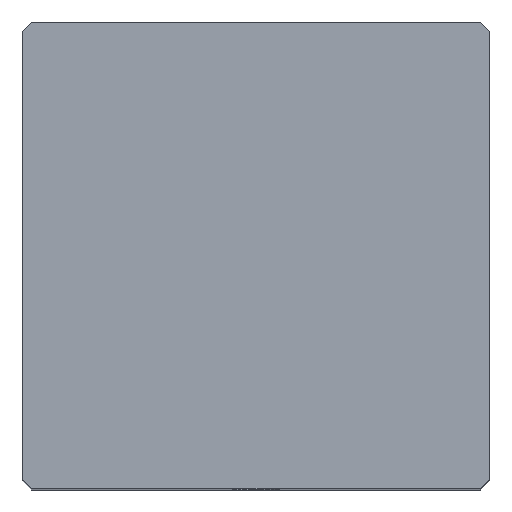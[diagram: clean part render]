
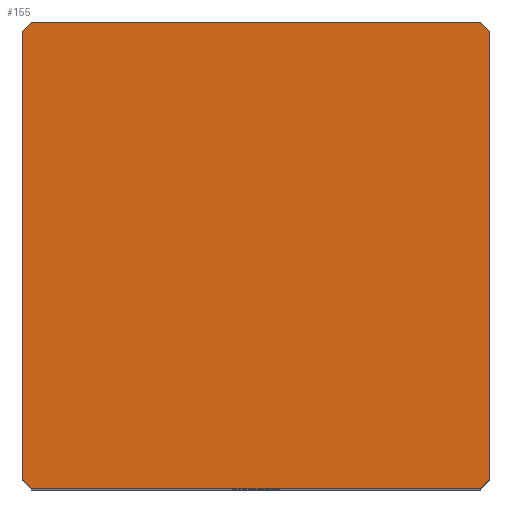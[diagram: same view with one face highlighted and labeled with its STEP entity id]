
A CAD part, top view. The second image highlights one B-rep face of the part: STEP entity #155.
In plain terms, the highlighted planar face has unit normal (0, 0, 1).
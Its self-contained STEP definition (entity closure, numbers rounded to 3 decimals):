
#39 = EDGE_CURVE('',#40,#42,#44,.T.);
#40 = VERTEX_POINT('',#41);
#41 = CARTESIAN_POINT('',(-10.,-9.6,25.75));
#42 = VERTEX_POINT('',#43);
#43 = CARTESIAN_POINT('',(-10.,9.6,25.75));
#44 = SURFACE_CURVE('',#45,(#49,#61),.PCURVE_S1.);
#45 = LINE('',#46,#47);
#46 = CARTESIAN_POINT('',(-10.,-10.,25.75));
#47 = VECTOR('',#48,1.);
#48 = DIRECTION('',(-0.,1.,0.));
#49 = PCURVE('',#50,#55);
#50 = PLANE('',#51);
#51 = AXIS2_PLACEMENT_3D('',#52,#53,#54);
#52 = CARTESIAN_POINT('',(-10.,-10.,0.));
#53 = DIRECTION('',(1.,0.,-0.));
#54 = DIRECTION('',(0.,0.,1.));
#55 = DEFINITIONAL_REPRESENTATION('',(#56),#60);
#56 = LINE('',#57,#58);
#57 = CARTESIAN_POINT('',(25.75,0.));
#58 = VECTOR('',#59,1.);
#59 = DIRECTION('',(0.,-1.));
#60 = ( GEOMETRIC_REPRESENTATION_CONTEXT(2) 
PARAMETRIC_REPRESENTATION_CONTEXT() REPRESENTATION_CONTEXT('2D SPACE',''
  ) );
#61 = PCURVE('',#62,#67);
#62 = PLANE('',#63);
#63 = AXIS2_PLACEMENT_3D('',#64,#65,#66);
#64 = CARTESIAN_POINT('',(-10.,-10.,25.75));
#65 = DIRECTION('',(0.,0.,1.));
#66 = DIRECTION('',(1.,0.,-0.));
#67 = DEFINITIONAL_REPRESENTATION('',(#68),#72);
#68 = LINE('',#69,#70);
#69 = CARTESIAN_POINT('',(0.,0.));
#70 = VECTOR('',#71,1.);
#71 = DIRECTION('',(0.,1.));
#72 = ( GEOMETRIC_REPRESENTATION_CONTEXT(2) 
PARAMETRIC_REPRESENTATION_CONTEXT() REPRESENTATION_CONTEXT('2D SPACE',''
  ) );
#90 = PLANE('',#91);
#91 = AXIS2_PLACEMENT_3D('',#92,#93,#94);
#92 = CARTESIAN_POINT('',(-9.8,-9.8,0.));
#93 = DIRECTION('',(-0.707,-0.707,0.));
#94 = DIRECTION('',(-0.,-0.,-1.));
#144 = PLANE('',#145);
#145 = AXIS2_PLACEMENT_3D('',#146,#147,#148);
#146 = CARTESIAN_POINT('',(-9.8,9.8,0.));
#147 = DIRECTION('',(0.707,-0.707,0.));
#148 = DIRECTION('',(-0.,-0.,-1.));
#155 = ADVANCED_FACE('',(#156),#62,.T.);
#156 = FACE_BOUND('',#157,.T.);
#157 = EDGE_LOOP('',(#158,#159,#182,#210,#238,#266,#294,#322));
#158 = ORIENTED_EDGE('',*,*,#39,.F.);
#159 = ORIENTED_EDGE('',*,*,#160,.T.);
#160 = EDGE_CURVE('',#40,#161,#163,.T.);
#161 = VERTEX_POINT('',#162);
#162 = CARTESIAN_POINT('',(-9.6,-10.,25.75));
#163 = SURFACE_CURVE('',#164,(#168,#175),.PCURVE_S1.);
#164 = LINE('',#165,#166);
#165 = CARTESIAN_POINT('',(-9.8,-9.8,25.75));
#166 = VECTOR('',#167,1.);
#167 = DIRECTION('',(0.707,-0.707,0.));
#168 = PCURVE('',#62,#169);
#169 = DEFINITIONAL_REPRESENTATION('',(#170),#174);
#170 = LINE('',#171,#172);
#171 = CARTESIAN_POINT('',(0.2,0.2));
#172 = VECTOR('',#173,1.);
#173 = DIRECTION('',(0.707,-0.707));
#174 = ( GEOMETRIC_REPRESENTATION_CONTEXT(2) 
PARAMETRIC_REPRESENTATION_CONTEXT() REPRESENTATION_CONTEXT('2D SPACE',''
  ) );
#175 = PCURVE('',#90,#176);
#176 = DEFINITIONAL_REPRESENTATION('',(#177),#181);
#177 = LINE('',#178,#179);
#178 = CARTESIAN_POINT('',(-25.75,0.));
#179 = VECTOR('',#180,1.);
#180 = DIRECTION('',(-0.,1.));
#181 = ( GEOMETRIC_REPRESENTATION_CONTEXT(2) 
PARAMETRIC_REPRESENTATION_CONTEXT() REPRESENTATION_CONTEXT('2D SPACE',''
  ) );
#182 = ORIENTED_EDGE('',*,*,#183,.T.);
#183 = EDGE_CURVE('',#161,#184,#186,.T.);
#184 = VERTEX_POINT('',#185);
#185 = CARTESIAN_POINT('',(9.6,-10.,25.75));
#186 = SURFACE_CURVE('',#187,(#191,#198),.PCURVE_S1.);
#187 = LINE('',#188,#189);
#188 = CARTESIAN_POINT('',(-10.,-10.,25.75));
#189 = VECTOR('',#190,1.);
#190 = DIRECTION('',(1.,0.,-0.));
#191 = PCURVE('',#62,#192);
#192 = DEFINITIONAL_REPRESENTATION('',(#193),#197);
#193 = LINE('',#194,#195);
#194 = CARTESIAN_POINT('',(0.,0.));
#195 = VECTOR('',#196,1.);
#196 = DIRECTION('',(1.,0.));
#197 = ( GEOMETRIC_REPRESENTATION_CONTEXT(2) 
PARAMETRIC_REPRESENTATION_CONTEXT() REPRESENTATION_CONTEXT('2D SPACE',''
  ) );
#198 = PCURVE('',#199,#204);
#199 = PLANE('',#200);
#200 = AXIS2_PLACEMENT_3D('',#201,#202,#203);
#201 = CARTESIAN_POINT('',(-10.,-10.,0.));
#202 = DIRECTION('',(-0.,1.,0.));
#203 = DIRECTION('',(0.,0.,1.));
#204 = DEFINITIONAL_REPRESENTATION('',(#205),#209);
#205 = LINE('',#206,#207);
#206 = CARTESIAN_POINT('',(25.75,0.));
#207 = VECTOR('',#208,1.);
#208 = DIRECTION('',(0.,1.));
#209 = ( GEOMETRIC_REPRESENTATION_CONTEXT(2) 
PARAMETRIC_REPRESENTATION_CONTEXT() REPRESENTATION_CONTEXT('2D SPACE',''
  ) );
#210 = ORIENTED_EDGE('',*,*,#211,.F.);
#211 = EDGE_CURVE('',#212,#184,#214,.T.);
#212 = VERTEX_POINT('',#213);
#213 = CARTESIAN_POINT('',(10.,-9.6,25.75));
#214 = SURFACE_CURVE('',#215,(#219,#226),.PCURVE_S1.);
#215 = LINE('',#216,#217);
#216 = CARTESIAN_POINT('',(4.8,-14.8,25.75));
#217 = VECTOR('',#218,1.);
#218 = DIRECTION('',(-0.707,-0.707,0.));
#219 = PCURVE('',#62,#220);
#220 = DEFINITIONAL_REPRESENTATION('',(#221),#225);
#221 = LINE('',#222,#223);
#222 = CARTESIAN_POINT('',(14.8,-4.8));
#223 = VECTOR('',#224,1.);
#224 = DIRECTION('',(-0.707,-0.707));
#225 = ( GEOMETRIC_REPRESENTATION_CONTEXT(2) 
PARAMETRIC_REPRESENTATION_CONTEXT() REPRESENTATION_CONTEXT('2D SPACE',''
  ) );
#226 = PCURVE('',#227,#232);
#227 = PLANE('',#228);
#228 = AXIS2_PLACEMENT_3D('',#229,#230,#231);
#229 = CARTESIAN_POINT('',(9.8,-9.8,0.));
#230 = DIRECTION('',(-0.707,0.707,0.));
#231 = DIRECTION('',(-0.,-0.,-1.));
#232 = DEFINITIONAL_REPRESENTATION('',(#233),#237);
#233 = LINE('',#234,#235);
#234 = CARTESIAN_POINT('',(-25.75,7.071));
#235 = VECTOR('',#236,1.);
#236 = DIRECTION('',(-0.,1.));
#237 = ( GEOMETRIC_REPRESENTATION_CONTEXT(2) 
PARAMETRIC_REPRESENTATION_CONTEXT() REPRESENTATION_CONTEXT('2D SPACE',''
  ) );
#238 = ORIENTED_EDGE('',*,*,#239,.T.);
#239 = EDGE_CURVE('',#212,#240,#242,.T.);
#240 = VERTEX_POINT('',#241);
#241 = CARTESIAN_POINT('',(10.,9.6,25.75));
#242 = SURFACE_CURVE('',#243,(#247,#254),.PCURVE_S1.);
#243 = LINE('',#244,#245);
#244 = CARTESIAN_POINT('',(10.,-10.,25.75));
#245 = VECTOR('',#246,1.);
#246 = DIRECTION('',(-0.,1.,0.));
#247 = PCURVE('',#62,#248);
#248 = DEFINITIONAL_REPRESENTATION('',(#249),#253);
#249 = LINE('',#250,#251);
#250 = CARTESIAN_POINT('',(20.,0.));
#251 = VECTOR('',#252,1.);
#252 = DIRECTION('',(0.,1.));
#253 = ( GEOMETRIC_REPRESENTATION_CONTEXT(2) 
PARAMETRIC_REPRESENTATION_CONTEXT() REPRESENTATION_CONTEXT('2D SPACE',''
  ) );
#254 = PCURVE('',#255,#260);
#255 = PLANE('',#256);
#256 = AXIS2_PLACEMENT_3D('',#257,#258,#259);
#257 = CARTESIAN_POINT('',(10.,-10.,0.));
#258 = DIRECTION('',(1.,0.,-0.));
#259 = DIRECTION('',(0.,0.,1.));
#260 = DEFINITIONAL_REPRESENTATION('',(#261),#265);
#261 = LINE('',#262,#263);
#262 = CARTESIAN_POINT('',(25.75,0.));
#263 = VECTOR('',#264,1.);
#264 = DIRECTION('',(0.,-1.));
#265 = ( GEOMETRIC_REPRESENTATION_CONTEXT(2) 
PARAMETRIC_REPRESENTATION_CONTEXT() REPRESENTATION_CONTEXT('2D SPACE',''
  ) );
#266 = ORIENTED_EDGE('',*,*,#267,.T.);
#267 = EDGE_CURVE('',#240,#268,#270,.T.);
#268 = VERTEX_POINT('',#269);
#269 = CARTESIAN_POINT('',(9.6,10.,25.75));
#270 = SURFACE_CURVE('',#271,(#275,#282),.PCURVE_S1.);
#271 = LINE('',#272,#273);
#272 = CARTESIAN_POINT('',(9.8,9.8,25.75));
#273 = VECTOR('',#274,1.);
#274 = DIRECTION('',(-0.707,0.707,0.));
#275 = PCURVE('',#62,#276);
#276 = DEFINITIONAL_REPRESENTATION('',(#277),#281);
#277 = LINE('',#278,#279);
#278 = CARTESIAN_POINT('',(19.8,19.8));
#279 = VECTOR('',#280,1.);
#280 = DIRECTION('',(-0.707,0.707));
#281 = ( GEOMETRIC_REPRESENTATION_CONTEXT(2) 
PARAMETRIC_REPRESENTATION_CONTEXT() REPRESENTATION_CONTEXT('2D SPACE',''
  ) );
#282 = PCURVE('',#283,#288);
#283 = PLANE('',#284);
#284 = AXIS2_PLACEMENT_3D('',#285,#286,#287);
#285 = CARTESIAN_POINT('',(9.8,9.8,0.));
#286 = DIRECTION('',(0.707,0.707,0.));
#287 = DIRECTION('',(-0.,0.,-1.));
#288 = DEFINITIONAL_REPRESENTATION('',(#289),#293);
#289 = LINE('',#290,#291);
#290 = CARTESIAN_POINT('',(-25.75,0.));
#291 = VECTOR('',#292,1.);
#292 = DIRECTION('',(-0.,1.));
#293 = ( GEOMETRIC_REPRESENTATION_CONTEXT(2) 
PARAMETRIC_REPRESENTATION_CONTEXT() REPRESENTATION_CONTEXT('2D SPACE',''
  ) );
#294 = ORIENTED_EDGE('',*,*,#295,.F.);
#295 = EDGE_CURVE('',#296,#268,#298,.T.);
#296 = VERTEX_POINT('',#297);
#297 = CARTESIAN_POINT('',(-9.6,10.,25.75));
#298 = SURFACE_CURVE('',#299,(#303,#310),.PCURVE_S1.);
#299 = LINE('',#300,#301);
#300 = CARTESIAN_POINT('',(-10.,10.,25.75));
#301 = VECTOR('',#302,1.);
#302 = DIRECTION('',(1.,0.,-0.));
#303 = PCURVE('',#62,#304);
#304 = DEFINITIONAL_REPRESENTATION('',(#305),#309);
#305 = LINE('',#306,#307);
#306 = CARTESIAN_POINT('',(0.,20.));
#307 = VECTOR('',#308,1.);
#308 = DIRECTION('',(1.,0.));
#309 = ( GEOMETRIC_REPRESENTATION_CONTEXT(2) 
PARAMETRIC_REPRESENTATION_CONTEXT() REPRESENTATION_CONTEXT('2D SPACE',''
  ) );
#310 = PCURVE('',#311,#316);
#311 = PLANE('',#312);
#312 = AXIS2_PLACEMENT_3D('',#313,#314,#315);
#313 = CARTESIAN_POINT('',(-10.,10.,0.));
#314 = DIRECTION('',(-0.,1.,0.));
#315 = DIRECTION('',(0.,0.,1.));
#316 = DEFINITIONAL_REPRESENTATION('',(#317),#321);
#317 = LINE('',#318,#319);
#318 = CARTESIAN_POINT('',(25.75,0.));
#319 = VECTOR('',#320,1.);
#320 = DIRECTION('',(0.,1.));
#321 = ( GEOMETRIC_REPRESENTATION_CONTEXT(2) 
PARAMETRIC_REPRESENTATION_CONTEXT() REPRESENTATION_CONTEXT('2D SPACE',''
  ) );
#322 = ORIENTED_EDGE('',*,*,#323,.F.);
#323 = EDGE_CURVE('',#42,#296,#324,.T.);
#324 = SURFACE_CURVE('',#325,(#329,#336),.PCURVE_S1.);
#325 = LINE('',#326,#327);
#326 = CARTESIAN_POINT('',(-14.8,4.8,25.75));
#327 = VECTOR('',#328,1.);
#328 = DIRECTION('',(0.707,0.707,-0.));
#329 = PCURVE('',#62,#330);
#330 = DEFINITIONAL_REPRESENTATION('',(#331),#335);
#331 = LINE('',#332,#333);
#332 = CARTESIAN_POINT('',(-4.8,14.8));
#333 = VECTOR('',#334,1.);
#334 = DIRECTION('',(0.707,0.707));
#335 = ( GEOMETRIC_REPRESENTATION_CONTEXT(2) 
PARAMETRIC_REPRESENTATION_CONTEXT() REPRESENTATION_CONTEXT('2D SPACE',''
  ) );
#336 = PCURVE('',#144,#337);
#337 = DEFINITIONAL_REPRESENTATION('',(#338),#342);
#338 = LINE('',#339,#340);
#339 = CARTESIAN_POINT('',(-25.75,-7.071));
#340 = VECTOR('',#341,1.);
#341 = DIRECTION('',(-0.,1.));
#342 = ( GEOMETRIC_REPRESENTATION_CONTEXT(2) 
PARAMETRIC_REPRESENTATION_CONTEXT() REPRESENTATION_CONTEXT('2D SPACE',''
  ) );
